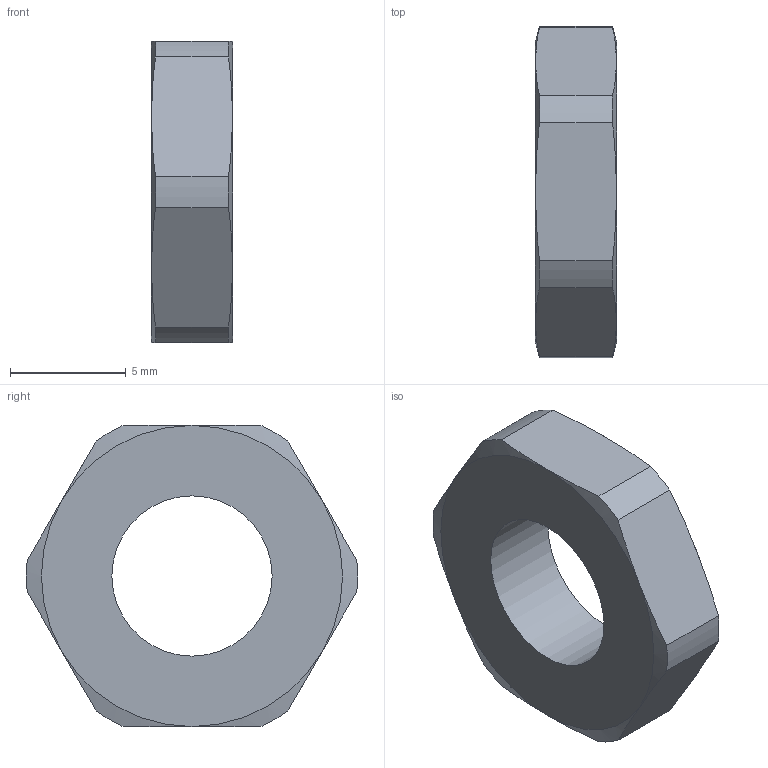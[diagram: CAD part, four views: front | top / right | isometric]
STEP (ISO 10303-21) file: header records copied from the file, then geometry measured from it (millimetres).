
FILE_DESCRIPTION( ( 'STEP AP203' ), '1' );
FILE_NAME( 'C:/Temp/Ganter_Step_05_03_2020/data/3_1/gn909_5/Flat St. Steel-Hexagonal nut GN 909.5-M8x1.stp', '2020-03-12T09:07:22', ( 'License CC BY-ND 4.0' ), ( 'CADENAS' ), ' ', 'PARTsolutions', ' ' );
FILE_SCHEMA( ( 'CONFIG_CONTROL_DESIGN' ) );
Length unit declared in the file: millimetre
Products named in the file (1): _Flat St. Steel-Hexagonal nut GN 909.5-M8x1
Bounding box: 3.5 x 14.29 x 13 mm (x, y, z)
Volume: 374.2 mm3; surface area: 438 mm2
Topology: 1 solids, 1 shells, 27 faces, 63 edges, 38 vertices
Faces by surface type: cone 12, plane 8, cylinder 7
Full cylindrical faces by diameter (mm): 6.917 x1
Entity records: 834 total; most frequent: CARTESIAN_POINT 200, ORIENTED_EDGE 124, DIRECTION 120, EDGE_CURVE 62, AXIS2_PLACEMENT_3D 54, VERTEX_POINT 38, EDGE_LOOP 30, FACE_OUTER_BOUND 28
